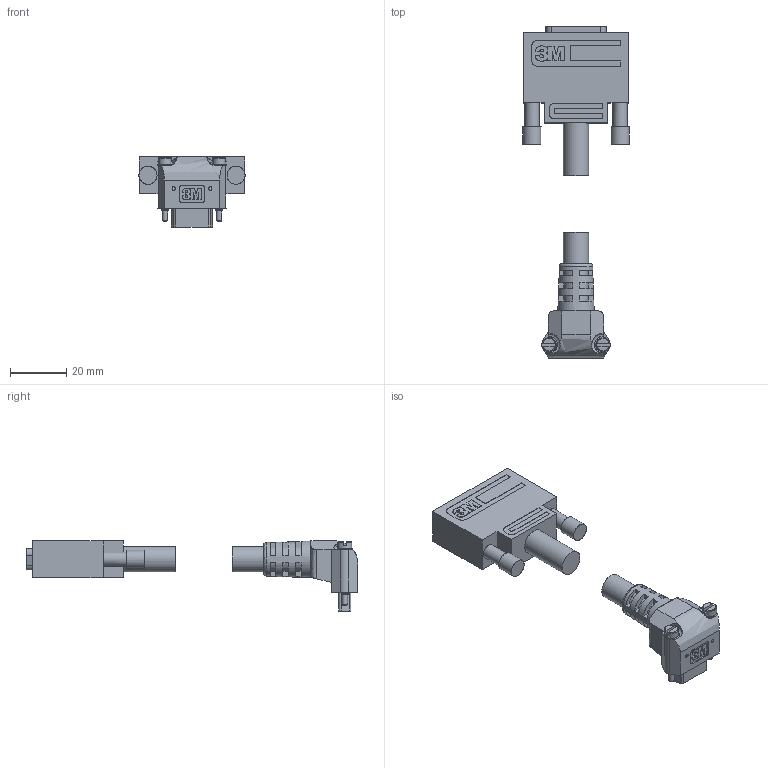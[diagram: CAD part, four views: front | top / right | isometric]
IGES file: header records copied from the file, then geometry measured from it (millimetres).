
Global section: file name: Q:\us254833\2011 Jobs\Cronch_1MF26-L5XX_wr11198\l137\1MF26-L577-00C-XXX_iges.igs; native system: NX V7.5; preprocessor: SIEMENS PLM Software NX 7.5; date: 20110610.141926; units: millimetre
Bounding box: 37.68 x 117.89 x 24.9 mm (x, y, z)
Surface area: 10979 mm2 (no closed solid volume)
Topology: 0 solids, 0 shells, 583 faces, 3604 edges, 3564 vertices
Faces by surface type: bspline 583
